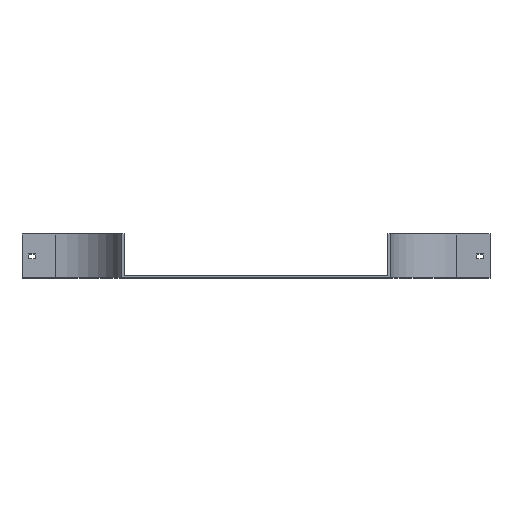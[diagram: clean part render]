
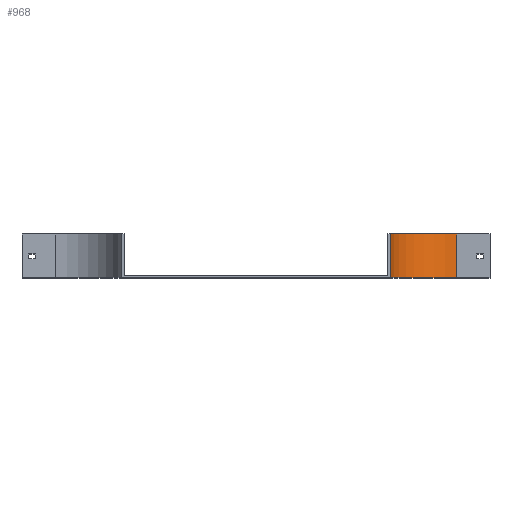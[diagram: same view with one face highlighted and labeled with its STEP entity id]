
A CAD part, top view. The second image highlights one B-rep face of the part: STEP entity #968.
In plain terms, the highlighted cylindrical face has radius 100 mm (diameter 200 mm), a partial arc.
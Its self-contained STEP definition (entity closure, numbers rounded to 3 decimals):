
#77 = VERTEX_POINT ( 'NONE', #682 ) ;
#91 = LINE ( 'NONE', #1344, #2508 ) ;
#176 = LINE ( 'NONE', #1054, #2539 ) ;
#224 = DIRECTION ( 'NONE',  ( 0., 0., -1. ) ) ;
#253 = CIRCLE ( 'NONE', #475, 100. ) ;
#307 = VERTEX_POINT ( 'NONE', #1493 ) ;
#401 = ORIENTED_EDGE ( 'NONE', *, *, #1158, .T. ) ;
#475 = AXIS2_PLACEMENT_3D ( 'NONE', #2307, #2506, #1480 ) ;
#495 = FACE_OUTER_BOUND ( 'NONE', #939, .T. ) ;
#539 = CARTESIAN_POINT ( 'NONE',  ( -100., 0., 0. ) ) ;
#624 = DIRECTION ( 'NONE',  ( 0., -1., 0. ) ) ;
#682 = CARTESIAN_POINT ( 'NONE',  ( 0., 65.5, -100. ) ) ;
#856 = EDGE_CURVE ( 'NONE', #307, #984, #91, .T. ) ;
#939 = EDGE_LOOP ( 'NONE', ( #401, #2046, #1314, #1793 ) ) ;
#968 = ADVANCED_FACE ( 'NONE', ( #495 ), #1971, .F. ) ;
#984 = VERTEX_POINT ( 'NONE', #539 ) ;
#1054 = CARTESIAN_POINT ( 'NONE',  ( 0., 65.5, -100. ) ) ;
#1082 = CARTESIAN_POINT ( 'NONE',  ( 0., 0., -100. ) ) ;
#1158 = EDGE_CURVE ( 'NONE', #984, #1756, #1887, .T. ) ;
#1160 = EDGE_CURVE ( 'NONE', #307, #77, #253, .T. ) ;
#1279 = AXIS2_PLACEMENT_3D ( 'NONE', #1559, #1367, #2398 ) ;
#1314 = ORIENTED_EDGE ( 'NONE', *, *, #1160, .F. ) ;
#1344 = CARTESIAN_POINT ( 'NONE',  ( -100., 65.5, 0. ) ) ;
#1367 = DIRECTION ( 'NONE',  ( 0., -1., 0. ) ) ;
#1480 = DIRECTION ( 'NONE',  ( 0., 0., -1. ) ) ;
#1493 = CARTESIAN_POINT ( 'NONE',  ( -100., 65.5, 0. ) ) ;
#1559 = CARTESIAN_POINT ( 'NONE',  ( 0., 65.5, 0. ) ) ;
#1756 = VERTEX_POINT ( 'NONE', #1082 ) ;
#1793 = ORIENTED_EDGE ( 'NONE', *, *, #856, .T. ) ;
#1887 = CIRCLE ( 'NONE', #1978, 100. ) ;
#1971 = CYLINDRICAL_SURFACE ( 'NONE', #1279, 100. ) ;
#1978 = AXIS2_PLACEMENT_3D ( 'NONE', #2536, #2566, #224 ) ;
#2046 = ORIENTED_EDGE ( 'NONE', *, *, #2078, .F. ) ;
#2078 = EDGE_CURVE ( 'NONE', #77, #1756, #176, .T. ) ;
#2307 = CARTESIAN_POINT ( 'NONE',  ( 0., 65.5, 0. ) ) ;
#2398 = DIRECTION ( 'NONE',  ( 0., 0., -1. ) ) ;
#2506 = DIRECTION ( 'NONE',  ( 0., -1., 0. ) ) ;
#2508 = VECTOR ( 'NONE', #2623, 1000. ) ;
#2536 = CARTESIAN_POINT ( 'NONE',  ( 0., 0., 0. ) ) ;
#2539 = VECTOR ( 'NONE', #624, 1000. ) ;
#2566 = DIRECTION ( 'NONE',  ( 0., -1., 0. ) ) ;
#2623 = DIRECTION ( 'NONE',  ( 0., -1., 0. ) ) ;
